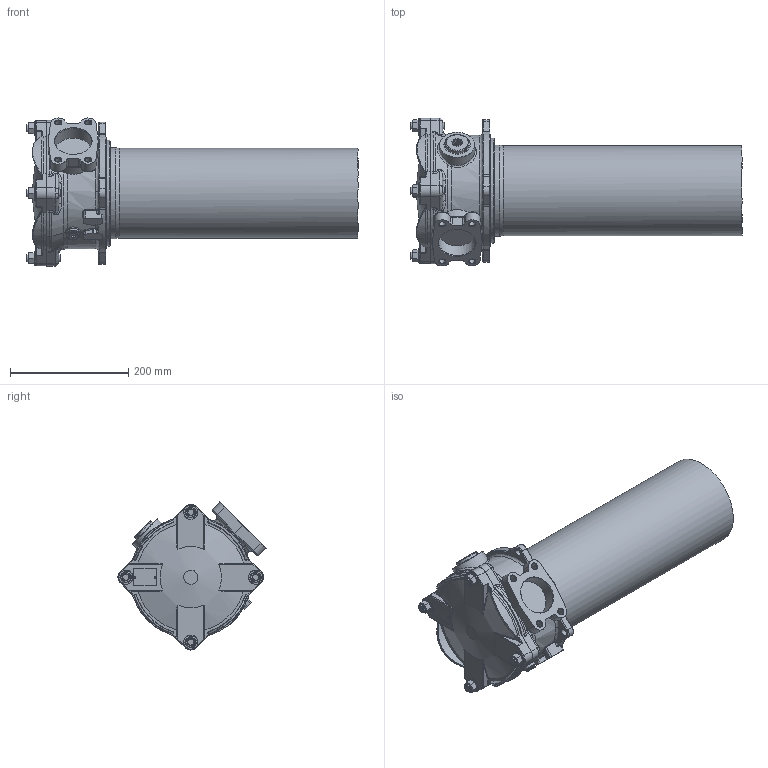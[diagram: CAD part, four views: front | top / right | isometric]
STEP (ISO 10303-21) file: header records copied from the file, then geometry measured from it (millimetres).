
FILE_DESCRIPTION((''),'2;1');
FILE_NAME('U:\Users\t.schleuter\Ruecklauffilter14197800(237424).stp','2013-04-12T15:21:12',('User'),('SDRC'),'I-DEAS Master Series 9','UNIX','Yes');
FILE_SCHEMA(('AUTOMOTIVE_DESIGN { 1 0 10303 214 1 1 1 1 }'));
Length unit declared in the file: millimetre
Products named in the file (1): 14197800(237424)
Bounding box: 562.3 x 250.74 x 250.75 mm (x, y, z)
Volume: 11439976.1 mm3; surface area: 428940.3 mm2
Topology: 1 solids, 13 shells, 847 faces, 2034 edges, 1243 vertices
Faces by surface type: bspline 847
Entity records: 35124 total; most frequent: CARTESIAN_POINT 23584, ORIENTED_EDGE 4040, EDGE_CURVE 2020, VERTEX_POINT 1243, B_SPLINE_CURVE_WITH_KNOTS 929, EDGE_LOOP 923, FACE_OUTER_BOUND 847, ADVANCED_FACE 847
